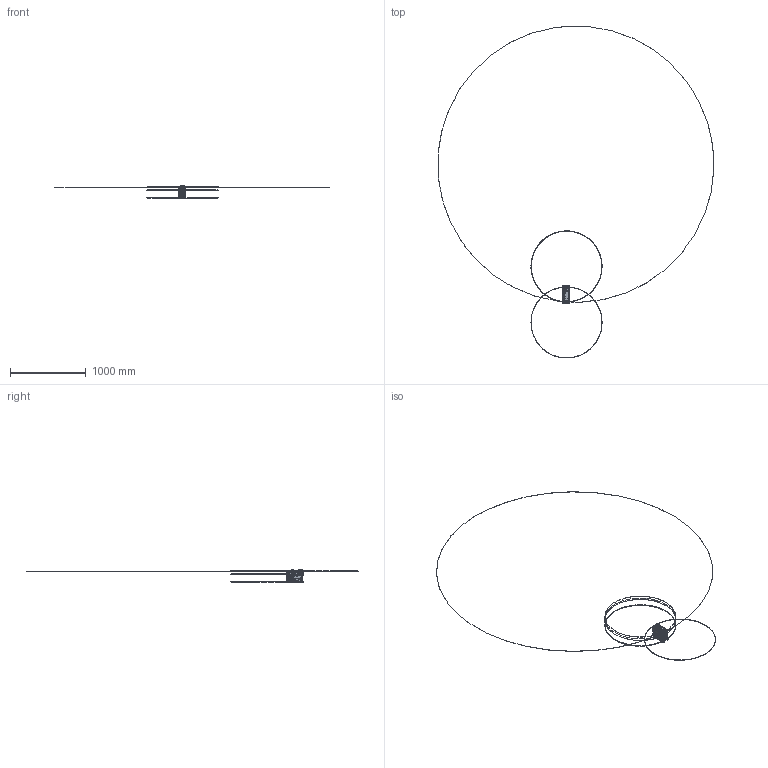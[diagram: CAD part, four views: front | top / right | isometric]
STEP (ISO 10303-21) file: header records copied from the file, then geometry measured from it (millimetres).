
FILE_DESCRIPTION((''),'2;1');
FILE_NAME('M400-SIMPLE_SW0001','2014-02-20T',('owenrh01'),(''),'PRO/ENGINEER BY PARAMETRIC TECHNOLOGY CORPORATION, 2011490','PRO/ENGINEER BY PARAMETRIC TECHNOLOGY CORPORATION, 2011490','');
FILE_SCHEMA(('CONFIG_CONTROL_DESIGN'));
Products named in the file (1): M400-SIMPLE_SW0001
Bounding box: 3639.84 x 4378.62 x 159.93 mm (x, y, z)
Surface area: 537825.5 mm2 (no closed solid volume)
Topology: 0 solids, 0 shells, 3705 faces, 24383 edges, 24197 vertices
Faces by surface type: bspline 3505, torus 171, sphere 29
Entity records: 427575 total; most frequent: CARTESIAN_POINT 210542, DIRECTION 32631, TRIMMED_CURVE 29349, VECTOR 26467, LINE 26467, DEFINITIONAL_REPRESENTATION 23986, PCURVE 23986, COMPOSITE_CURVE_SEGMENT 23986
